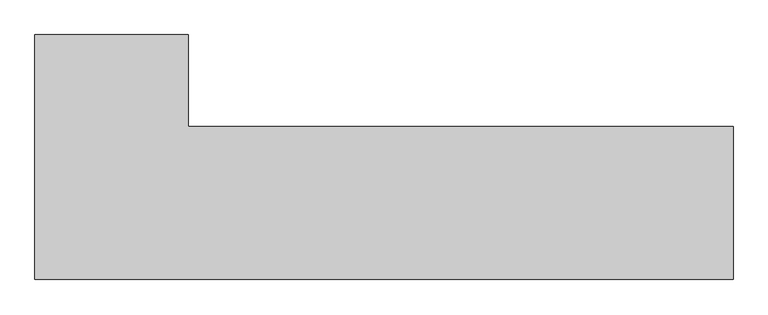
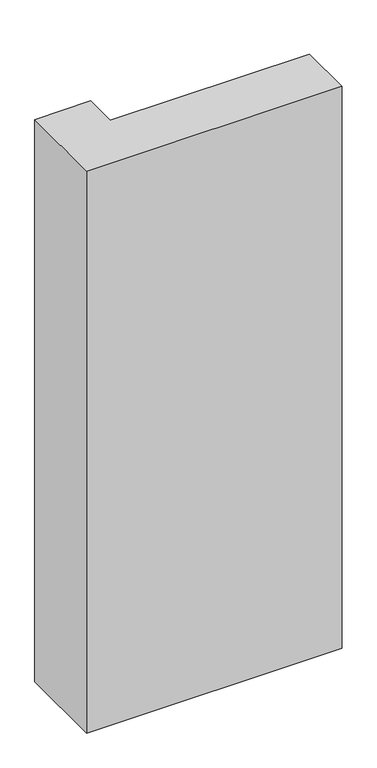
"""IFC4 building model written with IfcOpenShell, lengths in millimetres: column geometry, Columna Estructural Ele : ECO_Ele 40x114x25."""

from ifc_helpers import new_model, si_unit, frame, origin, place, context, project, spatial, polyline, outline, extrude, source, transform, mapped, element, save


def column_650a935f(model_context):
    return source(origin(), model_context, "Body", "SweptSolid", [
        extrude(outline(polyline([(125.0, 275.0), (125.0, 125.0), (1015.0, 125.0), (1015.0, -125.0), (-125.0, -125.0), (-125.0, 275.0), (125.0, 275.0)])), frame((0.0, 0.0, 10700.0), z_axis=(0.0, 0.0, 1.0), x_axis=(1.0, 0.0, 0.0)), (0.0, 0.0, 1.0), 2650.0),
    ])


if __name__ == "__main__":
    model = new_model("IFC4")
    model_context = context("Model", 3, world=origin())
    ifc_project = project(units=[si_unit("LENGTHUNIT", "METRE", prefix="MILLI")], contexts=[model_context])
    site = spatial("IfcSite", under=ifc_project)
    building = spatial("IfcBuilding", under=site)
    placement = place(None, origin())
    column_shape = column_650a935f(model_context)
    element("IfcColumn", 1, ObjectType="Columna Estructural Ele : ECO_Ele 40x114x25", at=placement, inside=building, context=model_context, shape_type="MappedRepresentation", body=[
        mapped(column_shape, transform((0.0, 0.0, 0.0), x_axis=(1.0, 0.0, 0.0), y_axis=(0.0, 1.0, 0.0), z_axis=(0.0, 0.0, 1.0))),
    ])
    save(model, "model.ifc")
